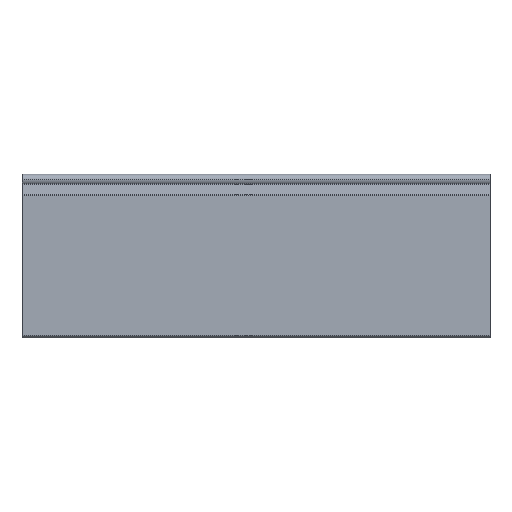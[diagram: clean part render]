
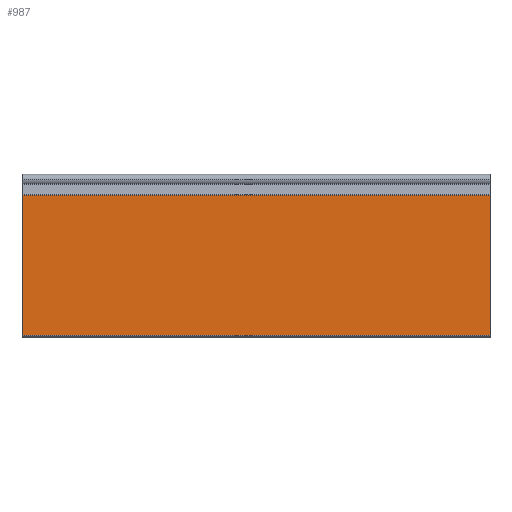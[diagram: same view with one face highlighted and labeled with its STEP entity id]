
A CAD part, top view. The second image highlights one B-rep face of the part: STEP entity #987.
In plain terms, the highlighted planar face has unit normal (0, 0, 1).
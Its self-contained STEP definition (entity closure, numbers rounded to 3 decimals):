
#48 = VECTOR ( 'NONE', #104, 1000. ) ;
#64 = LINE ( 'NONE', #90, #48 ) ;
#90 = CARTESIAN_POINT ( 'NONE',  ( 183., -12.164, 4.05 ) ) ;
#104 = DIRECTION ( 'NONE',  ( 0., -1., 0. ) ) ;
#166 = VERTEX_POINT ( 'NONE', #1048 ) ;
#177 = VERTEX_POINT ( 'NONE', #1059 ) ;
#195 = VERTEX_POINT ( 'NONE', #1077 ) ;
#210 = VERTEX_POINT ( 'NONE', #1092 ) ;
#251 = EDGE_CURVE ( 'NONE', #166, #177, #64, .T. ) ;
#316 = EDGE_LOOP ( 'NONE', ( #1036, #1035, #1034, #1033 ) ) ;
#380 = AXIS2_PLACEMENT_3D ( 'NONE', #1257, #1260, #1261 ) ;
#444 = CARTESIAN_POINT ( 'NONE',  ( -183., -12.164, 4.05 ) ) ;
#453 = DIRECTION ( 'NONE',  ( 0., -1., 0. ) ) ;
#571 = EDGE_CURVE ( 'NONE', #195, #210, #687, .T. ) ;
#583 = EDGE_CURVE ( 'NONE', #166, #195, #757, .T. ) ;
#584 = EDGE_CURVE ( 'NONE', #177, #210, #759, .T. ) ;
#684 = VECTOR ( 'NONE', #453, 1000. ) ;
#687 = LINE ( 'NONE', #444, #684 ) ;
#757 = LINE ( 'NONE', #820, #758 ) ;
#758 = VECTOR ( 'NONE', #821, 1000. ) ;
#759 = LINE ( 'NONE', #822, #760 ) ;
#760 = VECTOR ( 'NONE', #823, 1000. ) ;
#820 = CARTESIAN_POINT ( 'NONE',  ( 183., -12.164, 4.05 ) ) ;
#821 = DIRECTION ( 'NONE',  ( -1., 0., 0. ) ) ;
#822 = CARTESIAN_POINT ( 'NONE',  ( 183., -121.663, 4.05 ) ) ;
#823 = DIRECTION ( 'NONE',  ( -1., 0., 0. ) ) ;
#987 = ADVANCED_FACE ( 'NONE', ( #1199 ), #1258, .F. ) ;
#1033 = ORIENTED_EDGE ( 'NONE', *, *, #583, .T. ) ;
#1034 = ORIENTED_EDGE ( 'NONE', *, *, #251, .F. ) ;
#1035 = ORIENTED_EDGE ( 'NONE', *, *, #584, .F. ) ;
#1036 = ORIENTED_EDGE ( 'NONE', *, *, #571, .T. ) ;
#1048 = CARTESIAN_POINT ( 'NONE',  ( 183., -12.164, 4.05 ) ) ;
#1059 = CARTESIAN_POINT ( 'NONE',  ( 183., -121.663, 4.05 ) ) ;
#1077 = CARTESIAN_POINT ( 'NONE',  ( -183., -12.164, 4.05 ) ) ;
#1092 = CARTESIAN_POINT ( 'NONE',  ( -183., -121.663, 4.05 ) ) ;
#1199 = FACE_OUTER_BOUND ( 'NONE', #316, .T. ) ;
#1257 = CARTESIAN_POINT ( 'NONE',  ( 183., -12.164, 4.05 ) ) ;
#1258 = PLANE ( 'NONE',  #380 ) ;
#1260 = DIRECTION ( 'NONE',  ( 0., 0., -1. ) ) ;
#1261 = DIRECTION ( 'NONE',  ( 0., 1., 0. ) ) ;
